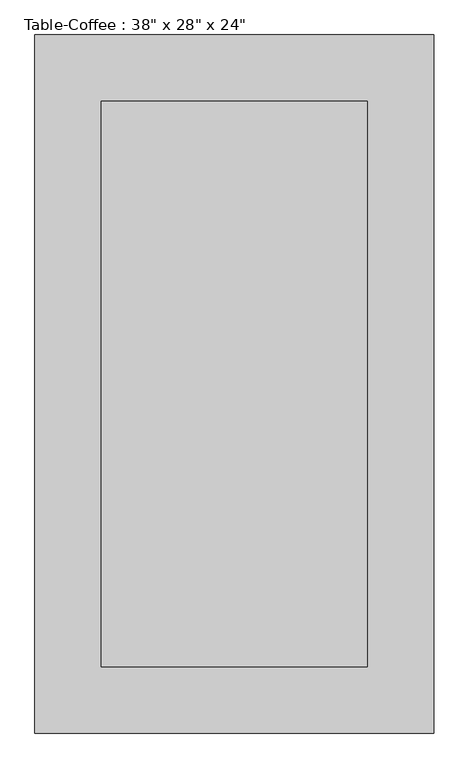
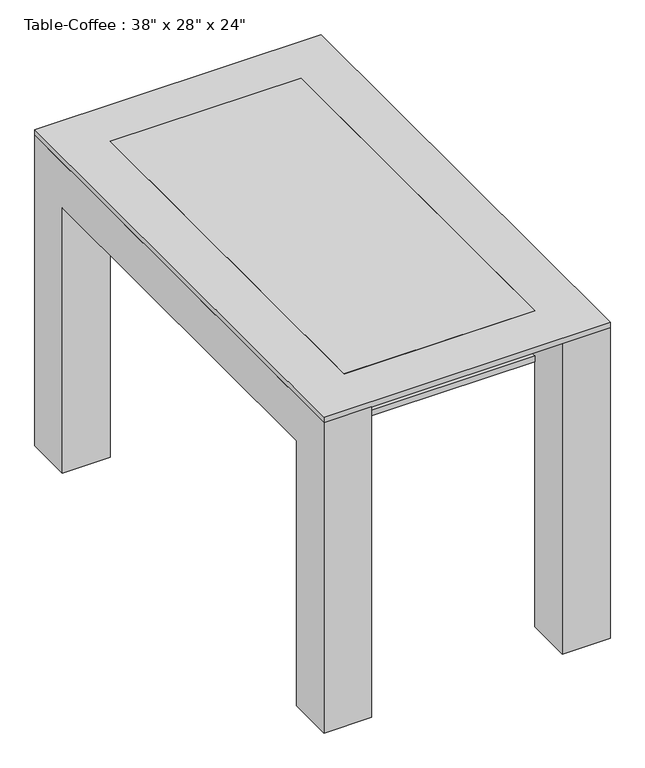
"""IFC4 building model written with IfcOpenShell, lengths in millimetres: furniture geometry."""

from ifc_helpers import new_model, si_unit, frame, origin, place, context, project, spatial, polyline, outline, extrude, source, transform, mapped, element, save


def furniture_feca7e9b(model_context):
    return source(origin(), model_context, "Body", "SweptSolid", [
        extrude(outline(polyline([(221.4657667, 527.0110778), (221.4657667, -336.5889222), (-184.9342333, -336.5889222), (-184.9342333, 527.0110778), (221.4657667, 527.0110778)])), frame((0.0, 0.0, 596.9), z_axis=(0.0, 0.0, 1.0), x_axis=(1.0, 0.0, 0.0)), (0.0, 0.0, 1.0), 12.7),
        extrude(outline(polyline([(628.6110778, 0.0), (527.0110778, 0.0), (527.0110778, 596.9), (-336.5889222, 596.9), (-336.5889222, 0.0), (-438.1889222, 0.0), (-438.1889222, 698.5), (628.6110778, 698.5), (628.6110778, 0.0)])), frame((221.4657667, 0.0, 0.0), z_axis=(1.0, 0.0, 0.0), x_axis=(0.0, 1.0, 0.0)), (0.0, 0.0, 1.0), 101.6),
        extrude(outline(polyline([(628.6110778, 698.5), (628.6110778, 0.0), (527.0110778, 0.0), (527.0110778, 596.9), (-336.5889222, 596.9), (-336.5889222, 0.0), (-438.1889222, 0.0), (-438.1889222, 698.5), (628.6110778, 698.5)])), frame((-286.5342333, 0.0, 0.0), z_axis=(1.0, 0.0, 0.0), x_axis=(0.0, 1.0, 0.0)), (0.0, 0.0, 1.0), 101.6),
        extrude(outline(polyline([(221.4657667, 527.0110778), (221.4657667, -336.5889222), (-184.9342333, -336.5889222), (-184.9342333, 527.0110778), (221.4657667, 527.0110778)])), frame((0.0, 0.0, 698.5), z_axis=(0.0, 0.0, 1.0), x_axis=(1.0, 0.0, 0.0)), (0.0, 0.0, 1.0), 12.7),
        extrude(outline(polyline([(323.0657667, 628.6110778), (323.0657667, -438.1889222), (-286.5342333, -438.1889222), (-286.5342333, 628.6110778), (323.0657667, 628.6110778)]), holes=[polyline([(221.4657667, 527.0110778), (-184.9342333, 527.0110778), (-184.9342333, -336.5889222), (221.4657667, -336.5889222), (221.4657667, 527.0110778)])]), frame((0.0, 0.0, 698.5), z_axis=(0.0, 0.0, 1.0), x_axis=(1.0, 0.0, 0.0)), (0.0, 0.0, 1.0), 12.7),
    ])


if __name__ == "__main__":
    model = new_model("IFC4")
    model_context = context("Model", 3, world=origin())
    ifc_project = project(units=[si_unit("LENGTHUNIT", "METRE", prefix="MILLI")], contexts=[model_context])
    site = spatial("IfcSite", under=ifc_project)
    building = spatial("IfcBuilding", under=site)
    placement = place(None, origin())
    furniture_shape = furniture_feca7e9b(model_context)
    element("IfcFurniture", 1, ObjectType="Table-Coffee : 38\" x 28\" x 24\"", at=placement, inside=building, context=model_context, shape_type="MappedRepresentation", body=[
        mapped(furniture_shape, transform((0.0, 0.0, 0.0), x_axis=(1.0, 0.0, 0.0), y_axis=(0.0, 1.0, 0.0), z_axis=(0.0, 0.0, 1.0))),
    ])
    save(model, "model.ifc")
